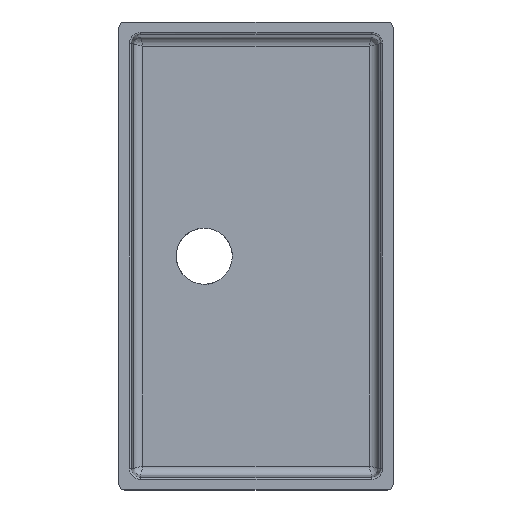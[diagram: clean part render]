
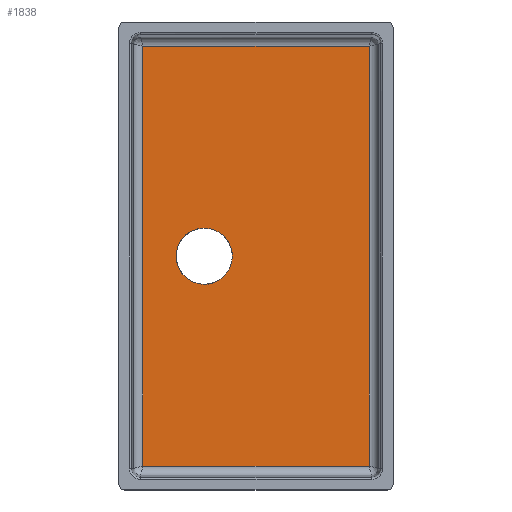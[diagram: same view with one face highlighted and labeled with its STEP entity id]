
A CAD part, top view. The second image highlights one B-rep face of the part: STEP entity #1838.
In plain terms, the highlighted planar face has unit normal (0, 0, 1).
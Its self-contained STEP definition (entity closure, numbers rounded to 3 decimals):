
#181=CARTESIAN_POINT('Vertex',(181.428,336.428,-199.)) ;
#511=CARTESIAN_POINT('Vertex',(181.428,-336.428,-199.)) ;
#557=CARTESIAN_POINT('Vertex',(-181.428,-336.428,-199.)) ;
#565=CARTESIAN_POINT('Line Origine',(0.,-336.428,-199.)) ;
#961=CARTESIAN_POINT('Vertex',(-181.428,336.428,-199.)) ;
#964=CARTESIAN_POINT('Line Origine',(0.,336.428,-199.)) ;
#1752=CARTESIAN_POINT('Line Origine',(-181.428,0.,-199.)) ;
#1764=CARTESIAN_POINT('Axis2P3D Location',(200.06,340.,-199.)) ;
#1769=CARTESIAN_POINT('Line Origine',(181.428,340.,-199.)) ;
#1781=CARTESIAN_POINT('Control Point',(-128.002,0.,-199.)) ;
#1782=CARTESIAN_POINT('Control Point',(-128.002,7.069,-199.)) ;
#1783=CARTESIAN_POINT('Control Point',(-126.614,14.137,-199.)) ;
#1784=CARTESIAN_POINT('Control Point',(-123.837,20.842,-199.)) ;
#1785=CARTESIAN_POINT('Control Point',(-115.803,32.801,-199.)) ;
#1786=CARTESIAN_POINT('Control Point',(-103.844,40.835,-199.)) ;
#1787=CARTESIAN_POINT('Control Point',(-97.139,43.612,-199.)) ;
#1788=CARTESIAN_POINT('Control Point',(-90.071,45.,-199.)) ;
#1789=CARTESIAN_POINT('Control Point',(-83.002,45.,-199.)) ;
#1790=CARTESIAN_POINT('Vertex',(-128.002,0.,-199.)) ;
#1792=CARTESIAN_POINT('Vertex',(-83.002,45.,-199.)) ;
#1796=CARTESIAN_POINT('Control Point',(-83.002,45.,-199.)) ;
#1797=CARTESIAN_POINT('Control Point',(-75.933,45.,-199.)) ;
#1798=CARTESIAN_POINT('Control Point',(-68.865,43.612,-199.)) ;
#1799=CARTESIAN_POINT('Control Point',(-62.16,40.835,-199.)) ;
#1800=CARTESIAN_POINT('Control Point',(-50.201,32.801,-199.)) ;
#1801=CARTESIAN_POINT('Control Point',(-42.167,20.842,-199.)) ;
#1802=CARTESIAN_POINT('Control Point',(-39.39,14.137,-199.)) ;
#1803=CARTESIAN_POINT('Control Point',(-38.002,7.069,-199.)) ;
#1804=CARTESIAN_POINT('Control Point',(-38.002,0.,-199.)) ;
#1805=CARTESIAN_POINT('Vertex',(-38.002,0.,-199.)) ;
#1809=CARTESIAN_POINT('Control Point',(-38.002,0.,-199.)) ;
#1810=CARTESIAN_POINT('Control Point',(-38.002,-7.069,-199.)) ;
#1811=CARTESIAN_POINT('Control Point',(-39.39,-14.137,-199.)) ;
#1812=CARTESIAN_POINT('Control Point',(-42.167,-20.842,-199.)) ;
#1813=CARTESIAN_POINT('Control Point',(-50.201,-32.801,-199.)) ;
#1814=CARTESIAN_POINT('Control Point',(-62.16,-40.835,-199.)) ;
#1815=CARTESIAN_POINT('Control Point',(-68.865,-43.612,-199.)) ;
#1816=CARTESIAN_POINT('Control Point',(-75.933,-45.,-199.)) ;
#1817=CARTESIAN_POINT('Control Point',(-83.002,-45.,-199.)) ;
#1818=CARTESIAN_POINT('Vertex',(-83.002,-45.,-199.)) ;
#1822=CARTESIAN_POINT('Control Point',(-83.002,-45.,-199.)) ;
#1823=CARTESIAN_POINT('Control Point',(-90.071,-45.,-199.)) ;
#1824=CARTESIAN_POINT('Control Point',(-97.139,-43.612,-199.)) ;
#1825=CARTESIAN_POINT('Control Point',(-103.844,-40.835,-199.)) ;
#1826=CARTESIAN_POINT('Control Point',(-115.803,-32.801,-199.)) ;
#1827=CARTESIAN_POINT('Control Point',(-123.837,-20.842,-199.)) ;
#1828=CARTESIAN_POINT('Control Point',(-126.614,-14.137,-199.)) ;
#1829=CARTESIAN_POINT('Control Point',(-128.002,-7.069,-199.)) ;
#1830=CARTESIAN_POINT('Control Point',(-128.002,0.,-199.)) ;
#566=DIRECTION('Vector Direction',(1.,0.,0.)) ;
#965=DIRECTION('Vector Direction',(-1.,0.,0.)) ;
#1753=DIRECTION('Vector Direction',(0.,-1.,0.)) ;
#1765=DIRECTION('Axis2P3D Direction',(0.,0.,-1.)) ;
#1766=DIRECTION('Axis2P3D XDirection',(1.,0.,0.)) ;
#1770=DIRECTION('Vector Direction',(0.,-1.,0.)) ;
#1767=AXIS2_PLACEMENT_3D('Plane Axis2P3D',#1764,#1765,#1766) ;
#1775=ORIENTED_EDGE('',*,*,#968,.F.) ;
#1776=ORIENTED_EDGE('',*,*,#1756,.F.) ;
#1777=ORIENTED_EDGE('',*,*,#569,.F.) ;
#1778=ORIENTED_EDGE('',*,*,#1773,.F.) ;
#1833=ORIENTED_EDGE('',*,*,#1794,.T.) ;
#1834=ORIENTED_EDGE('',*,*,#1807,.T.) ;
#1835=ORIENTED_EDGE('',*,*,#1820,.T.) ;
#1836=ORIENTED_EDGE('',*,*,#1831,.T.) ;
#1837=FACE_BOUND('',#1832,.T.) ;
#567=VECTOR('Line Direction',#566,1.) ;
#966=VECTOR('Line Direction',#965,1.) ;
#1754=VECTOR('Line Direction',#1753,1.) ;
#1771=VECTOR('Line Direction',#1770,1.) ;
#1838=ADVANCED_FACE('Vasca',(#1779,#1837),#1768,.F.) ;
#1780=B_SPLINE_CURVE_WITH_KNOTS('',5,(#1781,#1782,#1783,#1784,#1785,#1786,#1787,#1788,#1789),.UNSPECIFIED.,.F.,.U.,(6,3,6),(141.372,176.715,212.058),.UNSPECIFIED.) ;
#1795=B_SPLINE_CURVE_WITH_KNOTS('',5,(#1796,#1797,#1798,#1799,#1800,#1801,#1802,#1803,#1804),.UNSPECIFIED.,.F.,.U.,(6,3,6),(212.058,247.4,282.743),.UNSPECIFIED.) ;
#1808=B_SPLINE_CURVE_WITH_KNOTS('',5,(#1809,#1810,#1811,#1812,#1813,#1814,#1815,#1816,#1817),.UNSPECIFIED.,.F.,.U.,(6,3,6),(0.,35.343,70.686),.UNSPECIFIED.) ;
#1821=B_SPLINE_CURVE_WITH_KNOTS('',5,(#1822,#1823,#1824,#1825,#1826,#1827,#1828,#1829,#1830),.UNSPECIFIED.,.F.,.U.,(6,3,6),(70.686,106.029,141.372),.UNSPECIFIED.) ;
#569=EDGE_CURVE('',#512,#558,#568,.F.) ;
#968=EDGE_CURVE('',#962,#182,#967,.F.) ;
#1756=EDGE_CURVE('',#558,#962,#1755,.F.) ;
#1773=EDGE_CURVE('',#182,#512,#1772,.T.) ;
#1794=EDGE_CURVE('',#1791,#1793,#1780,.T.) ;
#1807=EDGE_CURVE('',#1793,#1806,#1795,.T.) ;
#1820=EDGE_CURVE('',#1806,#1819,#1808,.T.) ;
#1831=EDGE_CURVE('',#1819,#1791,#1821,.T.) ;
#1774=EDGE_LOOP('',(#1775,#1776,#1777,#1778)) ;
#1832=EDGE_LOOP('',(#1833,#1834,#1835,#1836)) ;
#1779=FACE_OUTER_BOUND('',#1774,.T.) ;
#568=LINE('Line',#565,#567) ;
#967=LINE('Line',#964,#966) ;
#1755=LINE('Line',#1752,#1754) ;
#1772=LINE('Line',#1769,#1771) ;
#1768=PLANE('',#1767) ;
#182=VERTEX_POINT('',#181) ;
#512=VERTEX_POINT('',#511) ;
#558=VERTEX_POINT('',#557) ;
#962=VERTEX_POINT('',#961) ;
#1791=VERTEX_POINT('',#1790) ;
#1793=VERTEX_POINT('',#1792) ;
#1806=VERTEX_POINT('',#1805) ;
#1819=VERTEX_POINT('',#1818) ;
